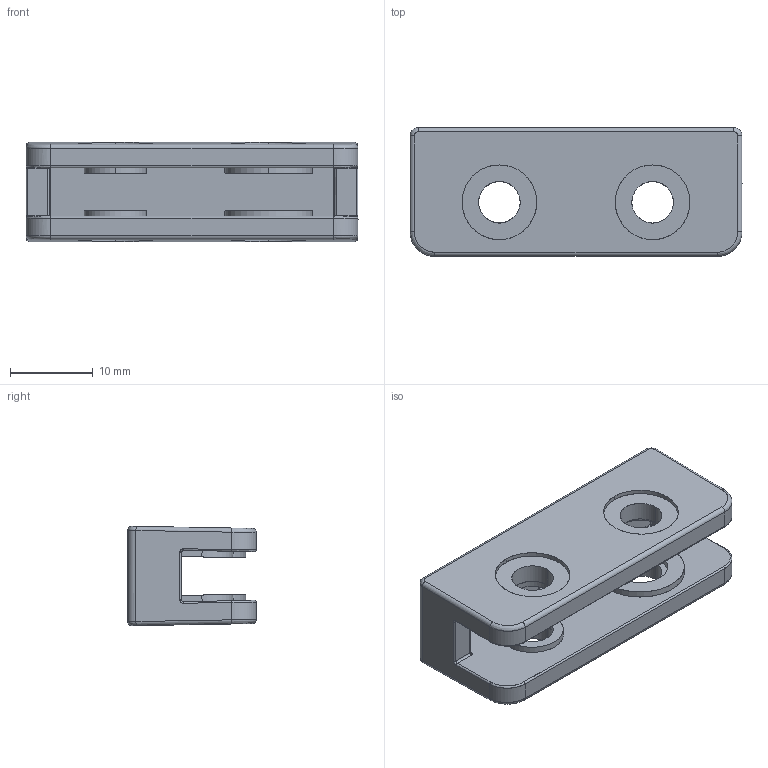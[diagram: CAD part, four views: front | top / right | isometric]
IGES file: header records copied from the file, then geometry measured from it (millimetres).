
Start section: SolidWorks IGES file using analytic representation for surfaces
Global section: file name: R:\DESIGN STORE\PRODUCTS\INDOOR AIRING\C0249 Bed Bath & Beyond X-Wing\stage 1\solidworks\C2\C0249 Iges 091013\C0249_208_C2_rack pivot_A.IGS; native system: SolidWorks 2013; preprocessor: SolidWorks 2013; author: howardm; date: 131009.161743; units: millimetre
Bounding box: 40 x 15.5 x 11.98 mm (x, y, z)
Surface area: 3516.8 mm2 (no closed solid volume)
Topology: 0 solids, 0 shells, 144 faces, 1740 edges, 1734 vertices
Faces by surface type: revolution 86, bspline 58
